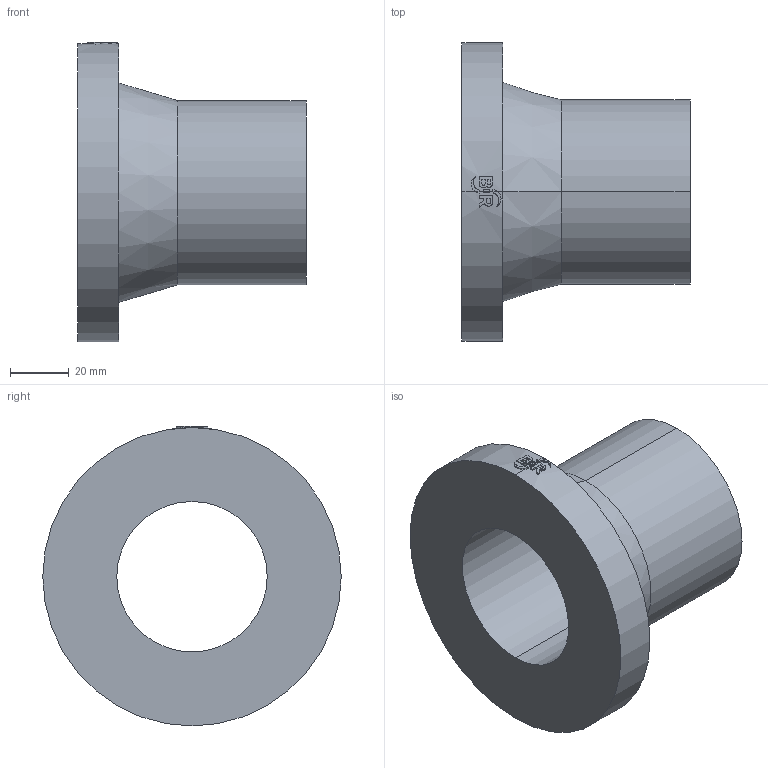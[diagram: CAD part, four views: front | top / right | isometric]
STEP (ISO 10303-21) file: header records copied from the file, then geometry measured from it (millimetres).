
FILE_DESCRIPTION (( 'STEP AP214' ), '1' );
FILE_NAME ('233511F015.STEP', '2018-07-20T12:35:26', ( '' ), ( '' ), 'SwSTEP 2.0', 'SolidWorks 2017', '' );
FILE_SCHEMA (( 'AUTOMOTIVE_DESIGN' ));
Length unit declared in the file: millimetre
Products named in the file (1): 233511F015
Bounding box: 78 x 102 x 102.5 mm (x, y, z)
Volume: 164700.5 mm3; surface area: 41252.8 mm2
Topology: 1 solids, 1 shells, 60 faces, 154 edges, 102 vertices
Faces by surface type: cylinder 29, plane 29, cone 2
Entity records: 2808 total; most frequent: CARTESIAN_POINT 691, ORIENTED_EDGE 308, DIRECTION 282, EDGE_CURVE 154, AXIS2_PLACEMENT_3D 107, VERTEX_POINT 102, VECTOR 68, LINE 68
